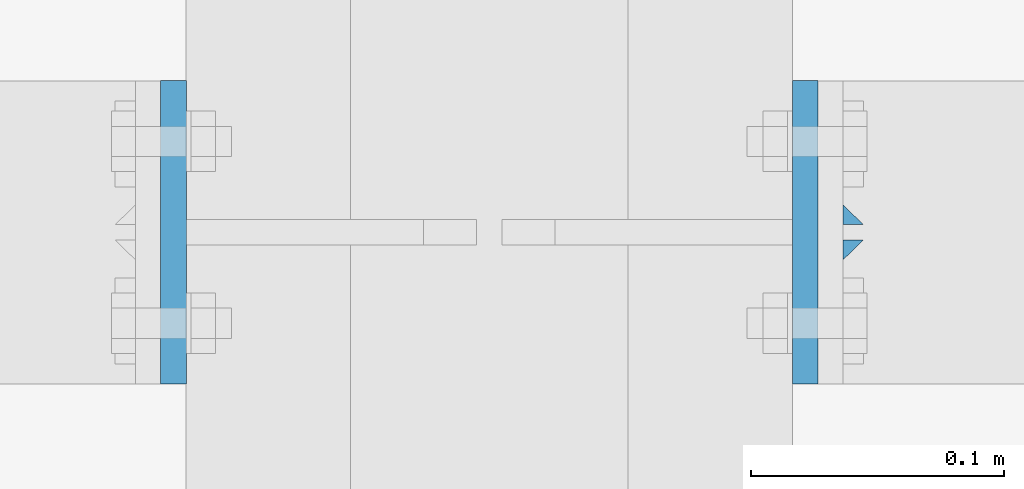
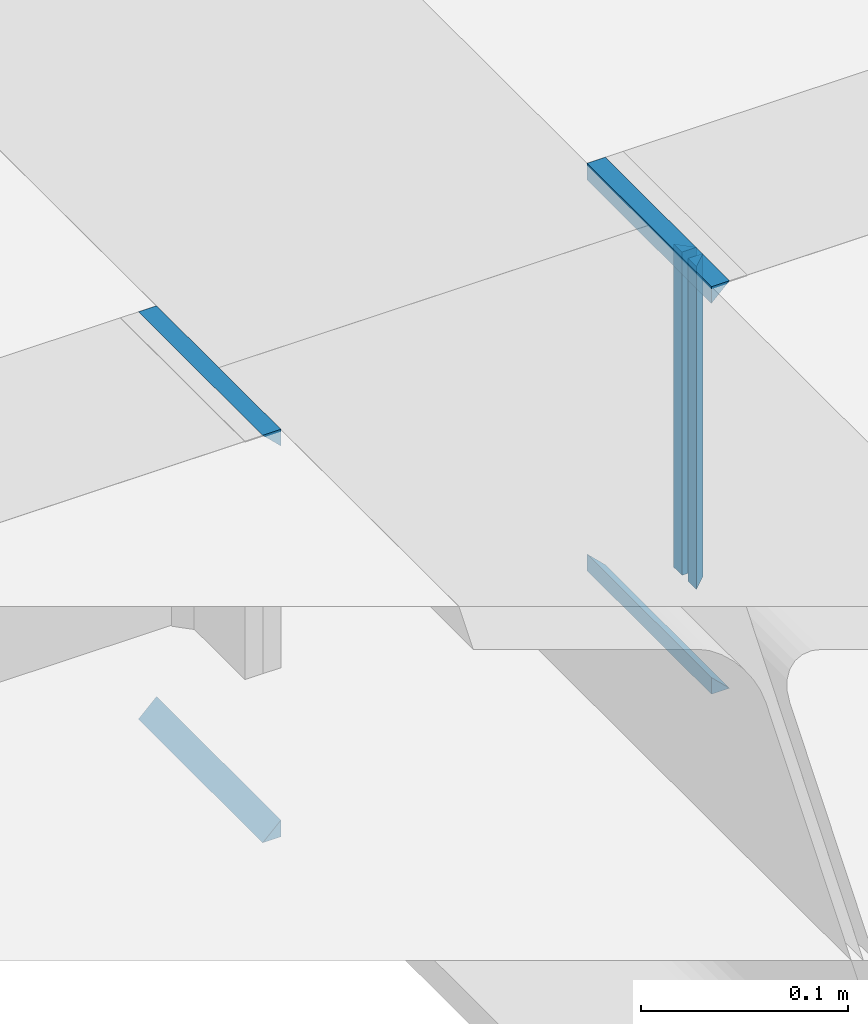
# One storey, part 11 of 66: 8 fasteners.
"""IFC4 building model written with IfcOpenShell, lengths in metres."""

import ifcopenshell
import ifcopenshell.guid

model = None  # the IFC model being written
_history = None  # IfcOwnerHistory: only IFC2X3 demands one
_inside = {}  # id of a spatial element -> (the spatial element, [elements in it])
_under = {}  # id of a project, library or spatial element -> (it, [spatial elements below it])
_declared = {}  # id of a project -> (the project, [libraries it declares])
_typed = {}  # id of a type object -> (the type object, [elements of that type])
_made_of = {}  # id of a material, layer set ... -> (it, [elements and type objects made of it])


def new_model(schema):
    """Start an empty IFC model of exactly this schema.

    Asked for "IFC4X3", IfcOpenShell would pick the latest addendum, in which some entities
    have other attributes; the version numbers below select the first issue.
    IFC2X3 requires an IfcOwnerHistory on every rooted entity: one is made here for all.
    """
    global model, _history
    if schema == "IFC4X3":
        model = ifcopenshell.file(schema_version=(4, 3, 0, 0))
    else:
        model = ifcopenshell.file(schema=schema)
    _inside.clear()
    _under.clear()
    _declared.clear()
    _typed.clear()
    _made_of.clear()
    _history = None
    if model.schema == "IFC2X3":
        org = make("IfcOrganization", Name="unknown")
        user = make(
            "IfcPersonAndOrganization",
            ThePerson=make("IfcPerson", FamilyName="unknown"),
            TheOrganization=org,
        )
        app = make(
            "IfcApplication",
            ApplicationDeveloper=org,
            Version="unknown",
            ApplicationFullName="unknown",
            ApplicationIdentifier="unknown",
        )
        _history = make(
            "IfcOwnerHistory",
            OwningUser=user,
            OwningApplication=app,
            ChangeAction="ADDED",
            CreationDate=0,
        )
    return model


def make(cls, **values):
    """One entity of the class cls with the attributes given. An attribute that is None is left unset."""
    return model.create_entity(
        cls, **{name: value for name, value in values.items() if value is not None}
    )


def rooted(cls, **values):
    """An entity with a GlobalId (a new one), such as an element, a storey or a relation."""
    return make(cls, GlobalId=ifcopenshell.guid.new(), OwnerHistory=_history, **values)


def si_unit(unit_type, name, prefix=None):
    """IfcSIUnit, for example si_unit("LENGTHUNIT", "METRE", prefix="MILLI")."""
    return make("IfcSIUnit", UnitType=unit_type, Prefix=prefix, Name=name)


def assignment(units):
    """IfcUnitAssignment: the units of a project."""
    return None if units is None else make("IfcUnitAssignment", Units=units)


def point(xyz):
    """IfcCartesianPoint."""
    return None if xyz is None else make("IfcCartesianPoint", Coordinates=xyz)


def direction(xyz):
    """IfcDirection."""
    return None if xyz is None else make("IfcDirection", DirectionRatios=xyz)


def frame(location, z_axis=None, x_axis=None):
    """IfcAxis2Placement3D, a coordinate frame: its origin and axes. An axis left out is left unset."""
    return make(
        "IfcAxis2Placement3D",
        Location=point(location),
        Axis=direction(z_axis),
        RefDirection=direction(x_axis),
    )


def origin_with_axes():
    """The frame at (0, 0, 0) with the z axis (0, 0, 1) and the x axis (1, 0, 0) written out."""
    return frame((0.0, 0.0, 0.0), z_axis=(0.0, 0.0, 1.0), x_axis=(1.0, 0.0, 0.0))


def place(relative_to, where):
    """IfcLocalPlacement: puts the frame where relative to a parent placement (None: the world)."""
    return make(
        "IfcLocalPlacement", PlacementRelTo=relative_to, RelativePlacement=where
    )


def context(
    kind, dimensions, precision=None, world=None, true_north=None, identifier=None
):
    """IfcGeometricRepresentationContext, for example the 3D "Model" context."""
    return make(
        "IfcGeometricRepresentationContext",
        ContextIdentifier=identifier,
        ContextType=kind,
        CoordinateSpaceDimension=dimensions,
        Precision=precision,
        WorldCoordinateSystem=world,
        TrueNorth=true_north,
    )


def project(units=None, contexts=None):
    """IfcProject with its units and contexts."""
    return rooted(
        "IfcProject",
        Name="project",
        RepresentationContexts=contexts,
        UnitsInContext=assignment(units),
    )


def spatial(cls, under=None, at=None, **own):
    """A site, building, storey or space (cls), placed at a placement, below another one or the project."""
    s = rooted(cls, ObjectPlacement=at, **own)
    if under is not None:
        _under.setdefault(under.id(), (under, []))[1].append(s)
    return s


def polyline(points):
    """IfcPolyline through the points."""
    return make("IfcPolyline", Points=[point(p) for p in points])


def outline(outer, holes=None, kind="AREA"):
    """IfcArbitraryClosedProfileDef: a profile drawn as a closed curve; with holes, ...WithVoids."""
    if holes is None:
        return make("IfcArbitraryClosedProfileDef", ProfileType=kind, OuterCurve=outer)
    return make(
        "IfcArbitraryProfileDefWithVoids",
        ProfileType=kind,
        OuterCurve=outer,
        InnerCurves=holes,
    )


def extrude(swept, where, along, depth):
    """IfcExtrudedAreaSolid: the profile swept, set in the frame where, extruded along a direction by depth."""
    return make(
        "IfcExtrudedAreaSolid",
        SweptArea=swept,
        Position=where,
        ExtrudedDirection=direction(along),
        Depth=depth,
    )


def shape(context_of_items, identifier, shape_type, items):
    """IfcShapeRepresentation: the items that make up one representation, for example the "Body"."""
    return make(
        "IfcShapeRepresentation",
        ContextOfItems=context_of_items,
        RepresentationIdentifier=identifier,
        RepresentationType=shape_type,
        Items=items,
    )


def made_of(thing, what):
    """Note that an element or type object is made of a material, layer set ...; save() writes the relation."""
    if what is not None:
        _made_of.setdefault(what.id(), (what, []))[1].append(thing)
    return thing


def type_object(cls, material=None, **own):
    """A type object (cls), such as IfcWallType, which elements share."""
    return made_of(rooted(cls, **own), material)


def element(
    cls,
    number,
    at=None,
    inside=None,
    cuts=None,
    type_object=None,
    material=None,
    context=None,
    identifier="Body",
    shape_type=None,
    held_by="IfcProductDefinitionShape",
    body=None,
    shapes=None,
    **own,
):
    """One element of the class cls, such as IfcWall. Its Tag is "e" and its number.

    at: its placement. inside: the storey or other place that contains it. cuts: it is an
    opening in that element (IfcRelVoidsElement). A single representation is given by context,
    identifier, shape_type and body (its items); several are given by shapes. held_by: the class
    of the entity that holds the representations. save() writes the other relations.
    """
    e = rooted(cls, Tag="e%d" % number, ObjectPlacement=at, **own)
    if body is not None:
        shapes = [shape(context, identifier, shape_type, body)]
    if shapes is not None:
        e.Representation = make(held_by, Representations=shapes)
    if inside is not None:
        _inside.setdefault(inside.id(), (inside, []))[1].append(e)
    if cuts is not None:
        rooted(
            "IfcRelVoidsElement", RelatingBuildingElement=cuts, RelatedOpeningElement=e
        )
    if type_object is not None:
        _typed.setdefault(type_object.id(), (type_object, []))[1].append(e)
    return made_of(e, material)


def aggregate(whole, parts):
    """IfcRelAggregates: a whole, such as a stair, and the parts it consists of."""
    return rooted("IfcRelAggregates", RelatingObject=whole, RelatedObjects=parts)


def save(model, path):
    """Write the relations noted so far, then the file.

    IfcRelAggregates (storeys below a building ...), IfcRelContainedInSpatialStructure (elements
    in a storey), IfcRelDefinesByType, IfcRelAssociatesMaterial and IfcRelDeclares: one each for
    every whole, place, type object, material and project.
    """
    for whole, parts in _under.values():
        aggregate(whole, parts)
    for where, things in _inside.values():
        rooted(
            "IfcRelContainedInSpatialStructure",
            RelatedElements=things,
            RelatingStructure=where,
        )
    for kind, things in _typed.values():
        rooted("IfcRelDefinesByType", RelatedObjects=things, RelatingType=kind)
    for what, things in _made_of.values():
        rooted("IfcRelAssociatesMaterial", RelatedObjects=things, RelatingMaterial=what)
    for by, libraries in _declared.values():
        rooted("IfcRelDeclares", RelatingContext=by, RelatedDefinitions=libraries)
    model.write(path)


model = new_model("IFC4")

# Units and contexts
model_context = context("Model", 3, precision=1e-05, world=origin_with_axes())
ifc_project = project(units=[si_unit("LENGTHUNIT", "METRE"), si_unit("AREAUNIT", "SQUARE_METRE"), si_unit("VOLUMEUNIT", "CUBIC_METRE"), si_unit("MASSUNIT", "GRAM", prefix="KILO"), si_unit("TIMEUNIT", "SECOND"), si_unit("PLANEANGLEUNIT", "RADIAN"), si_unit("SOLIDANGLEUNIT", "STERADIAN"), si_unit("THERMODYNAMICTEMPERATUREUNIT", "DEGREE_CELSIUS")], contexts=[model_context])

# Site, building, storey
placement_1 = place(None, origin_with_axes())
site = spatial("IfcSite", under=ifc_project, at=placement_1, Name="Italia", CompositionType="ELEMENT")
building = spatial("IfcBuilding", under=site, at=placement_1, Name="Uffici", CompositionType="ELEMENT")
storey_placement = place(None, frame((0.0, 0.0, 3.299999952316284), z_axis=(0.0, 0.0, 1.0), x_axis=(1.0, 0.0, 0.0)))
storey = spatial("IfcBuildingStorey", under=building, at=storey_placement, Name="Storey 1", CompositionType="ELEMENT", Elevation=3.299999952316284)

# Fasteners
fastener_type_1 = type_object("IfcFastenerType", Name="Collegamento -002_-001", PredefinedType="WELD")
placement_2 = place(placement_1, origin_with_axes())
fastener_1_placement = place(placement_2, origin_with_axes())
element("IfcFastener", 1, at=fastener_1_placement, inside=storey, type_object=fastener_type_1, Name="Collegamento -002_-001", context=model_context, shape_type="SweptSolid", body=[
    extrude(outline(polyline([(0.0, 0.0), (0.0101733, -0.00986814), (0.0, -0.00986814), (0.0, 0.0)])), frame((3.08505, 1.73662, 3.06982), z_axis=(0.0, 1.0, 0.0), x_axis=(-1.0, 0.0, 0.0)), (0.0, 0.0, 1.0), 0.1201),
])
fastener_type_2 = type_object("IfcFastenerType", Name="Collegamento -002_-001", PredefinedType="WELD")
fastener_2_placement = place(placement_2, origin_with_axes())
element("IfcFastener", 2, at=fastener_2_placement, inside=storey, type_object=fastener_type_2, Name="Collegamento -002_-001", context=model_context, shape_type="SweptSolid", body=[
    extrude(outline(polyline([(0.0, 0.0), (-0.0101733, 0.00986814), (0.0, 0.00986814), (0.0, 0.0)])), frame((3.08505, 1.85672, 3.29018), z_axis=(0.0, -1.0, 0.0), x_axis=(1.0, 0.0, 0.0)), (0.0, 0.0, 1.0), 0.1201),
])
fastener_type_3 = type_object("IfcFastenerType", Name="Collegamento -002_-003", PredefinedType="WELD")
fastener_3_placement = place(placement_2, origin_with_axes())
element("IfcFastener", 3, at=fastener_3_placement, inside=storey, type_object=fastener_type_3, Name="Collegamento -002_-003", context=model_context, shape_type="SweptSolid", body=[
    extrude(outline(polyline([(0.0, 0.0), (0.00792813, 0.00817347), (0.00792813, 0.0), (0.0, 0.0)])), frame((3.34495, 1.78569, 3.27525), z_axis=(0.0, 0.0, -1.0), x_axis=(0.0, 1.0, 0.0)), (0.0, 0.0, 1.0), 0.1905),
])
fastener_type_4 = type_object("IfcFastenerType", Name="Collegamento -002_-003", PredefinedType="WELD")
fastener_4_placement = place(placement_2, origin_with_axes())
element("IfcFastener", 4, at=fastener_4_placement, inside=storey, type_object=fastener_type_4, Name="Collegamento -002_-003", context=model_context, shape_type="SweptSolid", body=[
    extrude(outline(polyline([(0.0, 0.0), (-0.00792813, -0.00817347), (-0.00792813, 0.0), (0.0, 0.0)])), frame((3.34495, 1.80764, 3.08475), z_axis=(0.0, 0.0, 1.0), x_axis=(0.0, 1.0, 0.0)), (0.0, 0.0, 1.0), 0.1905),
])
fastener_type_5 = type_object("IfcFastenerType", Name="Collegamento -002_-003", PredefinedType="WELD")
fastener_5_placement = place(placement_2, origin_with_axes())
element("IfcFastener", 5, at=fastener_5_placement, inside=storey, type_object=fastener_type_5, Name="Collegamento -002_-003", context=model_context, shape_type="SweptSolid", body=[
    extrude(outline(polyline([(0.0, 0.0), (0.00792813, 0.00817347), (0.00792813, 0.0), (0.0, 0.0)])), frame((3.34495, 1.78569, 3.27525), z_axis=(0.0, 0.0, -1.0), x_axis=(0.0, 1.0, 0.0)), (0.0, 0.0, 1.0), 0.1905),
])
fastener_type_6 = type_object("IfcFastenerType", Name="Collegamento -002_-003", PredefinedType="WELD")
fastener_6_placement = place(placement_2, origin_with_axes())
element("IfcFastener", 6, at=fastener_6_placement, inside=storey, type_object=fastener_type_6, Name="Collegamento -002_-003", context=model_context, shape_type="SweptSolid", body=[
    extrude(outline(polyline([(0.0, 0.0), (-0.00792813, -0.00817347), (-0.00792813, 0.0), (0.0, 0.0)])), frame((3.34495, 1.80764, 3.08475), z_axis=(0.0, 0.0, 1.0), x_axis=(0.0, 1.0, 0.0)), (0.0, 0.0, 1.0), 0.1905),
])
fastener_type_7 = type_object("IfcFastenerType", Name="Collegamento -002_-003", PredefinedType="WELD")
fastener_7_placement = place(placement_2, origin_with_axes())
element("IfcFastener", 7, at=fastener_7_placement, inside=storey, type_object=fastener_type_7, Name="Collegamento -002_-003", context=model_context, shape_type="SweptSolid", body=[
    extrude(outline(polyline([(0.0, 0.0), (0.0101733, -0.00986814), (0.0, -0.00986814), (0.0, 0.0)])), frame((3.32495, 1.85672, 3.06982), z_axis=(0.0, -1.0, 0.0), x_axis=(1.0, 0.0, 0.0)), (0.0, 0.0, 1.0), 0.1201),
])
fastener_type_8 = type_object("IfcFastenerType", Name="Collegamento -002_-003", PredefinedType="WELD")
fastener_8_placement = place(placement_2, origin_with_axes())
element("IfcFastener", 8, at=fastener_8_placement, inside=storey, type_object=fastener_type_8, Name="Collegamento -002_-003", context=model_context, shape_type="SweptSolid", body=[
    extrude(outline(polyline([(0.0, 0.0), (-0.0101733, 0.00986814), (0.0, 0.00986814), (0.0, 0.0)])), frame((3.32495, 1.73662, 3.29018), z_axis=(0.0, 1.0, 0.0), x_axis=(-1.0, 0.0, 0.0)), (0.0, 0.0, 1.0), 0.1201),
])

save(model, "model.ifc")
